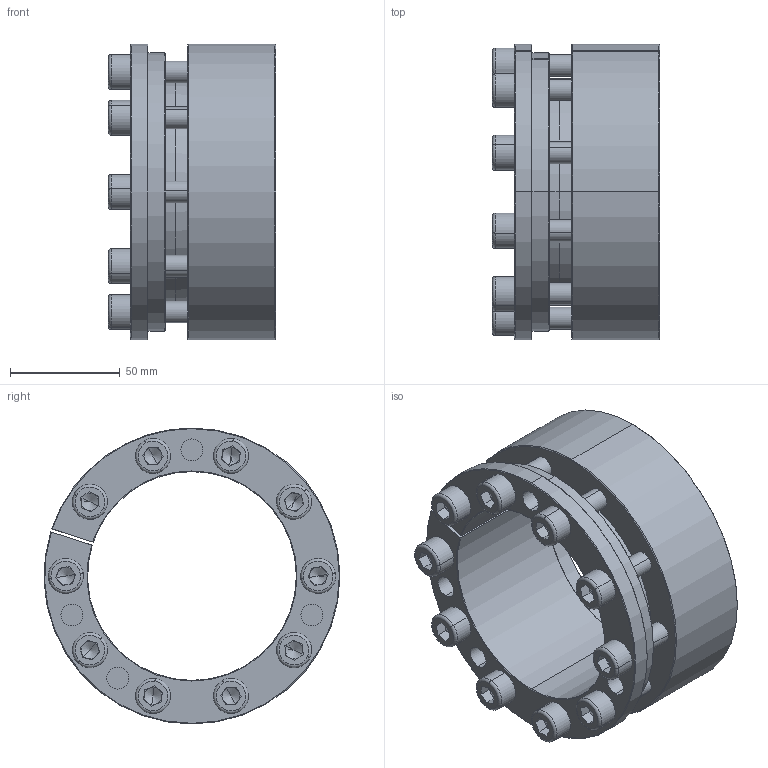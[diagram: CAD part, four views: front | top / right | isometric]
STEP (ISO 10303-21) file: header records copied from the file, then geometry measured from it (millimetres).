
FILE_DESCRIPTION (( 'STEP AP214' ), '1' );
FILE_NAME ('PL-H2 95-135.STEP', '2022-07-25T02:25:46', ( '' ), ( '' ), 'SwSTEP 2.0', 'SolidWorks 2022', '' );
FILE_SCHEMA (( 'AUTOMOTIVE_DESIGN' ));
Length unit declared in the file: millimetre
Products named in the file (1): PL-H2 95-135
Bounding box: 76.19 x 134.83 x 134.88 mm (x, y, z)
Volume: 394980.6 mm3; surface area: 102831.5 mm2
Topology: 1 solids, 1 shells, 357 faces, 873 edges, 538 vertices
Faces by surface type: plane 158, cylinder 103, cone 76, torus 20
Entity records: 10510 total; most frequent: DIRECTION 1950, CARTESIAN_POINT 1821, ORIENTED_EDGE 1706, EDGE_CURVE 853, AXIS2_PLACEMENT_3D 763, VERTEX_POINT 538, EDGE_LOOP 425, VECTOR 424
